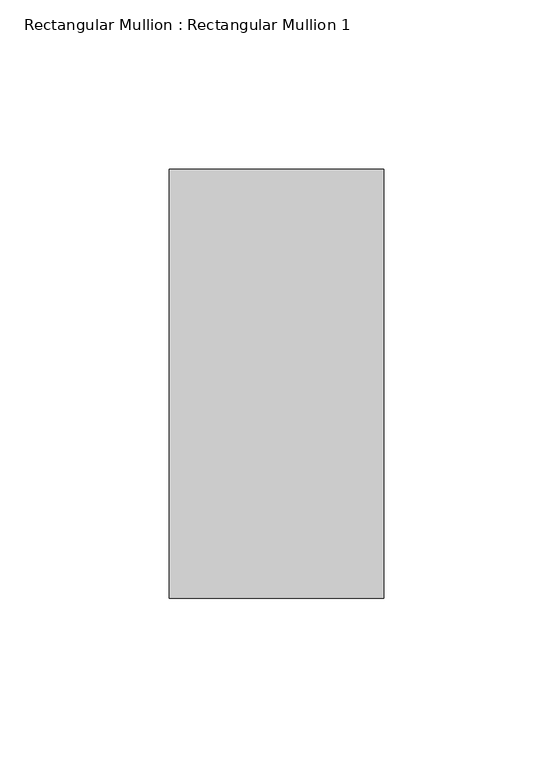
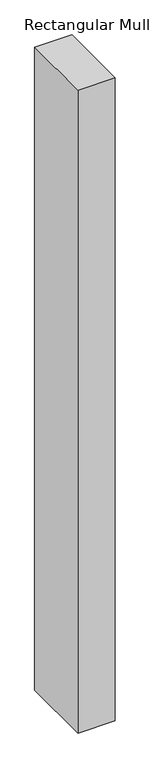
"""IFC4 building model written with IfcOpenShell, lengths in millimetres: member geometry, Rectangular Mullion : Rectangular Mullion 1."""

from ifc_helpers import new_model, si_unit, frame, origin, place, context, project, spatial, polyline, outline, extrude, source, transform, mapped, element, save


def rectangular_mullion_rectangular_mullion_1_fa3625a1(model_context):
    return source(origin(), model_context, "Body", "SweptSolid", [
        extrude(outline(polyline([(0.0, 63.5), (0.0, -63.5), (-63.5, -63.5), (-63.5, 63.5), (0.0, 63.5)])), frame((0.0, 0.0, -1155.7000003), z_axis=(0.0, 0.0, 1.0), x_axis=(1.0, 0.0, 0.0)), (0.0, 0.0, 1.0), 1155.7000003),
    ])


if __name__ == "__main__":
    model = new_model("IFC4")
    model_context = context("Model", 3, world=origin())
    ifc_project = project(units=[si_unit("LENGTHUNIT", "METRE", prefix="MILLI")], contexts=[model_context])
    site = spatial("IfcSite", under=ifc_project)
    building = spatial("IfcBuilding", under=site)
    placement = place(None, origin())
    rectangular_mullion_rectangular_mullion_1_shape = rectangular_mullion_rectangular_mullion_1_fa3625a1(model_context)
    element("IfcMember", 1, ObjectType="Rectangular Mullion : Rectangular Mullion 1", at=placement, inside=building, context=model_context, shape_type="MappedRepresentation", body=[
        mapped(rectangular_mullion_rectangular_mullion_1_shape, transform((0.0, 0.0, 0.0), x_axis=(1.0, 0.0, 0.0), y_axis=(0.0, 1.0, 0.0), z_axis=(0.0, 0.0, 1.0))),
    ])
    save(model, "model.ifc")
